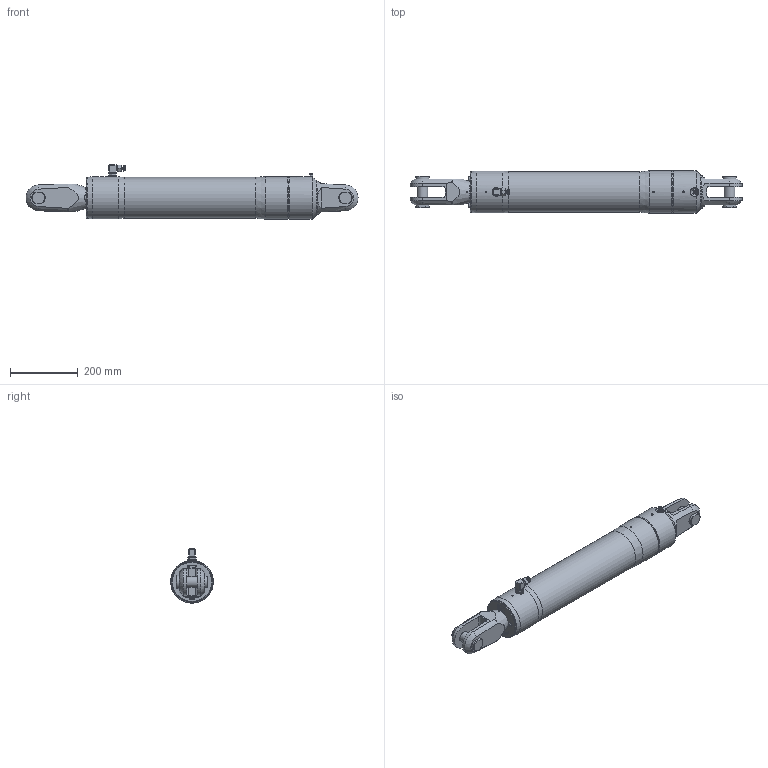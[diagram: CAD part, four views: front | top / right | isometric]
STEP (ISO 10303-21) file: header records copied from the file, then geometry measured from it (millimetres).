
FILE_DESCRIPTION(/* description */ (''),/* implementation_level */ '2;1');
FILE_NAME(/* name */ 'Q:\AA BRAND HYDRAULICS\HYDRAULICS FAMILY DIRECTORY\HYDRAULICS\CYLINDERS\RAMS\STAINLESS - STANDARD SINGLE ACTING (-0006 To -0260)\RSS-0076-S0375-NP-71\RSS-0076-S0375-NP-71 (Closed).stp',/* time_stamp */ '2018-02-07T16:55:58+00:00',/* author */ ('Lorena'),/* organization */ (''),/* preprocessor_version */ 'ST-DEVELOPER v17',/* originating_system */ 'Autodesk Inventor 2018',/* authorisation */ '');
FILE_SCHEMA (('AUTOMOTIVE_DESIGN { 1 0 10303 214 3 1 1 }'));
Length unit declared in the file: millimetre
Products named in the file (1): RSS-0076-S0375-NP-71 (Closed)
Bounding box: 978.42 x 125.6 x 160.15 mm (x, y, z)
Volume: 9141995.5 mm3; surface area: 397529.7 mm2
Topology: 2 solids, 6 shells, 1783 faces, 4808 edges, 3182 vertices
Faces by surface type: plane 1011, bspline 574, cone 111, cylinder 79, torus 4, sphere 4
Full cylindrical faces by diameter (mm): 4 x1, 4.134 x1, 5 x5, 7 x1, 7.5 x1, 8 x2, 8.1 x1, 9 x3, 10 x2, 14 x1, 14.35 x1, 14.662 x1, 15 x2, 15.662 x1, 16.662 x2, 18 x2, 20 x2, 21.4 x3, 25 x1, 31.75 x2, 35 x1, 37 x1, 39.688 x2, 119 x1, 120.6 x1, 123.6 x1, 124.6 x1, 125.6 x2
Entity records: 63524 total; most frequent: CARTESIAN_POINT 21196, ORIENTED_EDGE 9600, DIRECTION 6304, EDGE_CURVE 4800, VERTEX_POINT 3184, LINE 2974, VECTOR 2974, EDGE_LOOP 1950
